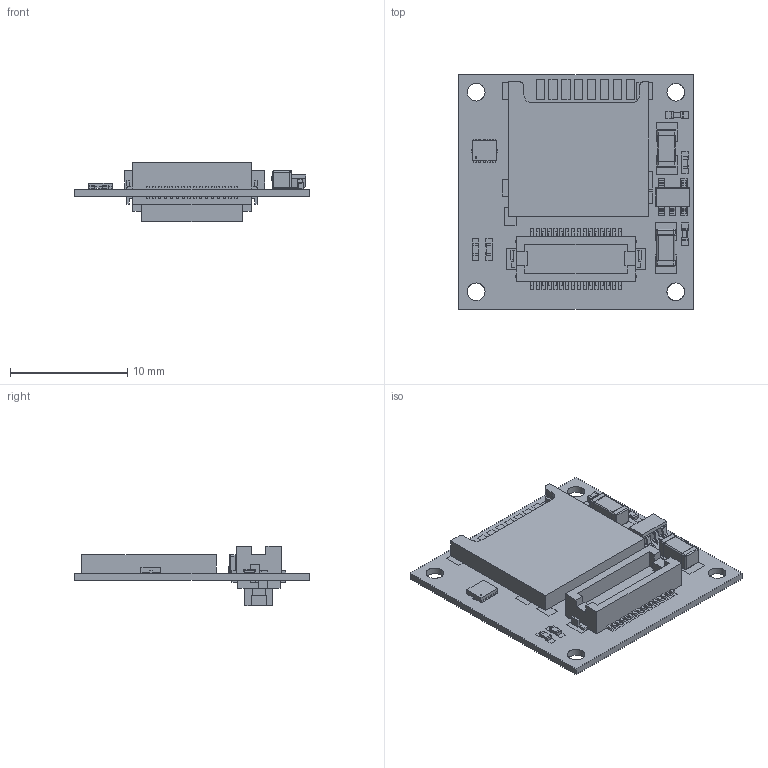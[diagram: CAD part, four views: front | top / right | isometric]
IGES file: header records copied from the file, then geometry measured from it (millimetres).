
Global section: file name: Filename.iges; native system: Open CASCADE 7.4; preprocessor: Open CASCADE IGES processor 7.4; date: 20200708.131314; units: millimetre
Bounding box: 20 x 20 x 5.1 mm (x, y, z)
Surface area: 3957.5 mm2 (no closed solid volume)
Topology: 0 solids, 0 shells, 3156 faces, 15044 edges, 16722 vertices
Faces by surface type: plane 2862, revolution 294
